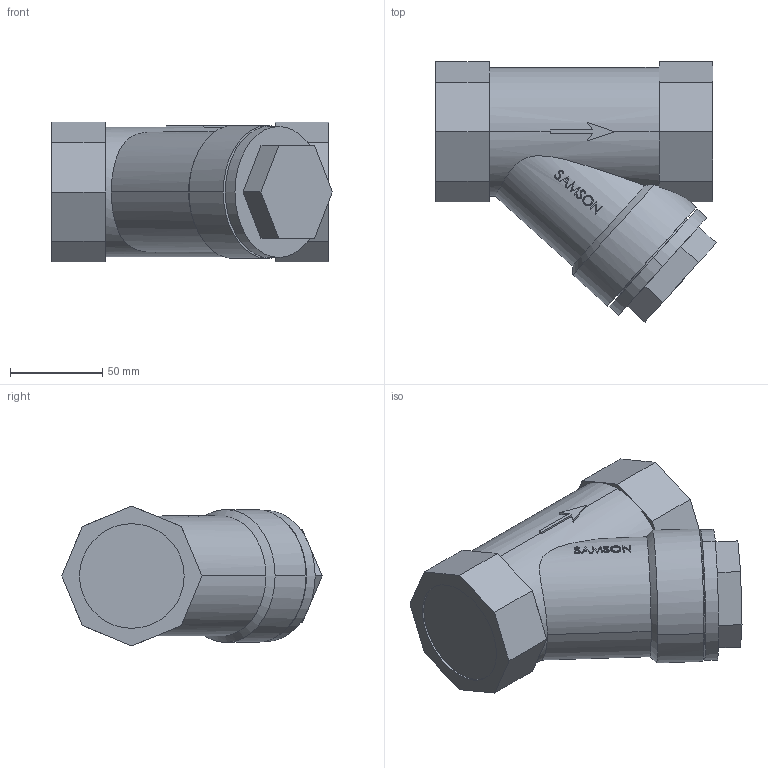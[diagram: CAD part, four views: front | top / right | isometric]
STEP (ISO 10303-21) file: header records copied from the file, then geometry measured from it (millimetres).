
FILE_DESCRIPTION (( 'STEP AP203' ), '1' );
FILE_NAME ('2601_1N_DIN_G2z_025_GTW-40-05_IGWD_std.STEP', '2010-05-25T08:00:30', ( '' ), ( '' ), 'SwSTEP 2.0', 'SolidWorks 2006303', '' );
FILE_SCHEMA (( 'CONFIG_CONTROL_DESIGN' ));
Length unit declared in the file: millimetre
Products named in the file (3): Gewindestopfen_G2z_00700671_Standard; 2601_1N_DIN_G2z_025_GTW-40-05_IGWD_std; Geh2601_1N_DIN_G2z_025_GTW-40-05_IGWD_01014201_Standard
Assembly tree (2 placements, depth 2):
  2601_1N_DIN_G2z_025_GTW-40-05_IGWD_std
    Gewindestopfen_G2z_00700671_Standard
    Geh2601_1N_DIN_G2z_025_GTW-40-05_IGWD_01014201_Standard
Bounding box: 152.01 x 140.93 x 75.77 mm (x, y, z)
Volume: 879511.8 mm3; surface area: 69029.5 mm2
Topology: 2 solids, 2 shells, 160 faces, 409 edges, 266 vertices
Faces by surface type: plane 99, bspline 38, cylinder 20, cone 3
Entity records: 7098 total; most frequent: CARTESIAN_POINT 3271, ORIENTED_EDGE 818, DIRECTION 586, EDGE_CURVE 409, VERTEX_POINT 266, VECTOR 230, LINE 230, AXIS2_PLACEMENT_3D 178
